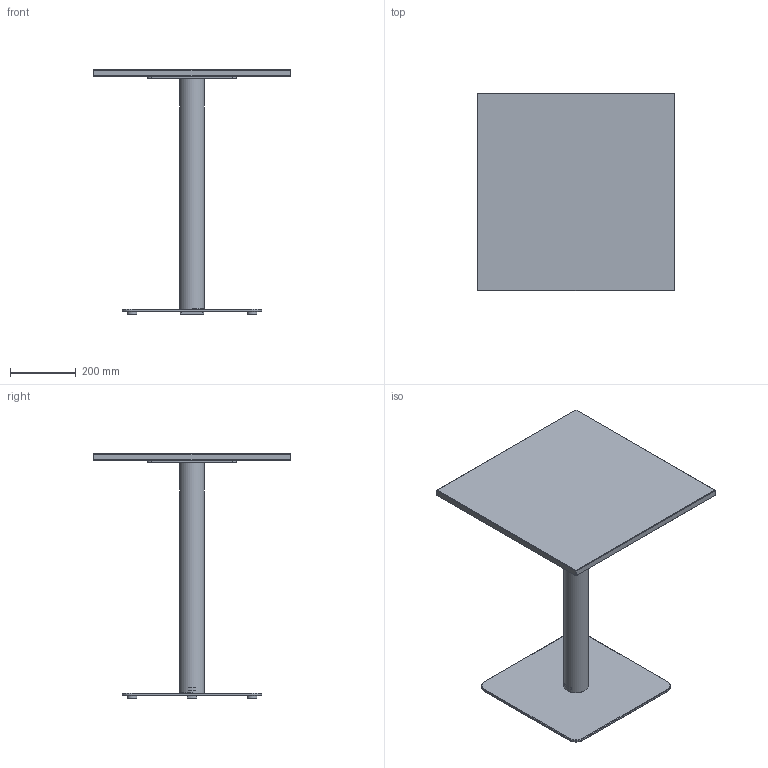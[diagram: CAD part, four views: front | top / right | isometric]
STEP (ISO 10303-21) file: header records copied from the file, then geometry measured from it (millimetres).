
FILE_DESCRIPTION( ('This file contains a STEP AP42 implementation' ,'as created by ZW3D STEP Interface translator.') ,'2;1' );
FILE_NAME( 'Henri - B_Carré - F4 - M1 - 600 x 600 x 750.stp' ,'24 912.171936', (''), ('ZWCAD Software Co.'), 'Version 1.0', 'ZW3D to STEP translator', '' );
FILE_SCHEMA(('AUTOMOTIVE_DESIGN { 1 0 10303 214 1 1 1 1 }'));
Length unit declared in the file: millimetre
Products named in the file (14): 0; PIED BISTROT PARAMETRIQUE_; COLONNE ACIER Ø76 V.02_; TUB-D076-02_; PLA-R76B-01_; CROIX ACIER 370 V.02_; CRX-X370-02_; SOCLE ACIER L 425x425 V.02_; SCL-R425-02_; PLA-R30A-01_; PLA-R30A-01; WUERTH 0276063020 Euro-screw 6.3x2 Verzinkt_; PLATEAU BISTROT PARAMETRIQUE_; insert_m6_13_
Assembly tree (22 placements, depth 3):
  0
  PIED BISTROT PARAMETRIQUE_
    COLONNE ACIER Ø76 V.02_
      TUB-D076-02_
      PLA-R76B-01_  x2
    CROIX ACIER 370 V.02_
      CRX-X370-02_
    SOCLE ACIER L 425x425 V.02_
      SCL-R425-02_
      PLA-R30A-01_
      PLA-R30A-01  x3
    WUERTH 0276063020 Euro-screw 6.3x2 Verzinkt_
    PLATEAU BISTROT PARAMETRIQUE_
      insert_m6_13_  x8
Bounding box: 600 x 600 x 744 mm (x, y, z)
Volume: 9572406.5 mm3; surface area: 1657043.3 mm2
Topology: 19 solids, 19 shells, 537 faces, 1310 edges, 814 vertices
Faces by surface type: plane 262, bspline 129, cylinder 98, cone 47, torus 1
Full cylindrical faces by diameter (mm): 4.88 x1, 6 x8, 6.3 x1, 8 x45, 12 x2, 14 x2, 30 x4, 72 x1, 76 x1
Entity records: 12222 total; most frequent: CARTESIAN_POINT 3436, ORIENTED_EDGE 1608, DIRECTION 1471, EDGE_CURVE 804, VECTOR 513, LINE 513, VERTEX_POINT 510, AXIS2_PLACEMENT_3D 479
